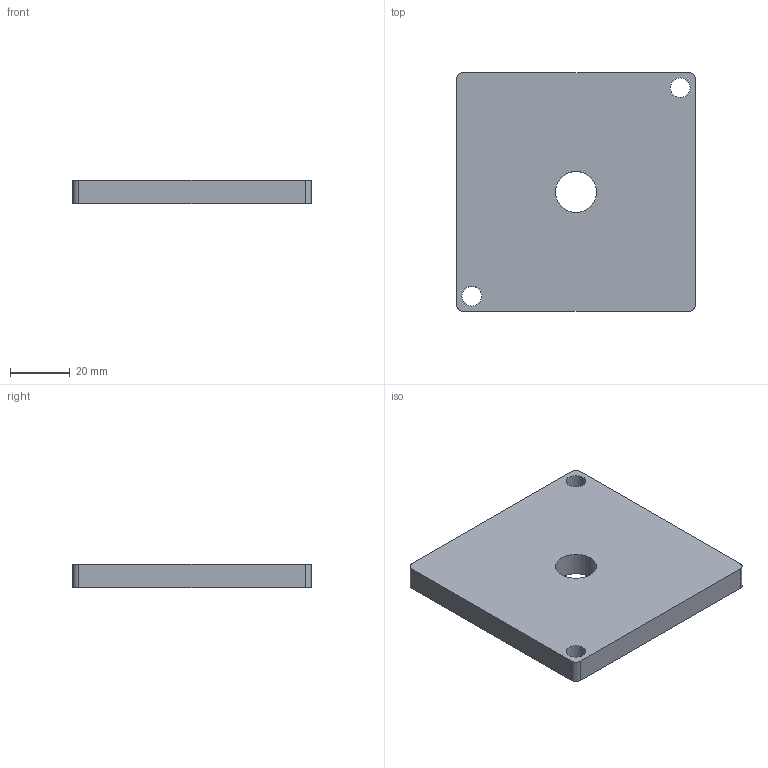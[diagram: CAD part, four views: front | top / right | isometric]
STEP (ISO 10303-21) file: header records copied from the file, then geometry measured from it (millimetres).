
FILE_DESCRIPTION(/* description */ ('ENDPLATE FOR FOOT M16, PROFILE 80x80'),/* implementation_level */ '2;1');
FILE_NAME(/* name */ '\\carryline.intra\privat\users\mathias\Desktop\Tillfälliga filer\100-1170.stp',/* time_stamp */ '2018-11-19T11:12:27+01:00',/* author */ ('MOB'),/* organization */ ('CARRYLINE'),/* preprocessor_version */ 'ST-DEVELOPER v17',/* originating_system */ 'Autodesk Inventor 2018',/* authorisation */ '');
FILE_SCHEMA (('AUTOMOTIVE_DESIGN { 1 0 10303 214 3 1 1 }'));
Length unit declared in the file: millimetre
Products named in the file (1): 100-1170
Bounding box: 80 x 80 x 8 mm (x, y, z)
Volume: 49422.5 mm3; surface area: 15567.6 mm2
Topology: 1 solids, 1 shells, 13 faces, 36 edges, 25 vertices
Faces by surface type: cylinder 7, plane 6
Full cylindrical faces by diameter (mm): 6.6 x2, 13.835 x1
Entity records: 482 total; most frequent: DIRECTION 81, CARTESIAN_POINT 75, ORIENTED_EDGE 72, EDGE_CURVE 36, AXIS2_PLACEMENT_3D 31, VERTEX_POINT 25, EDGE_LOOP 19, LINE 19
